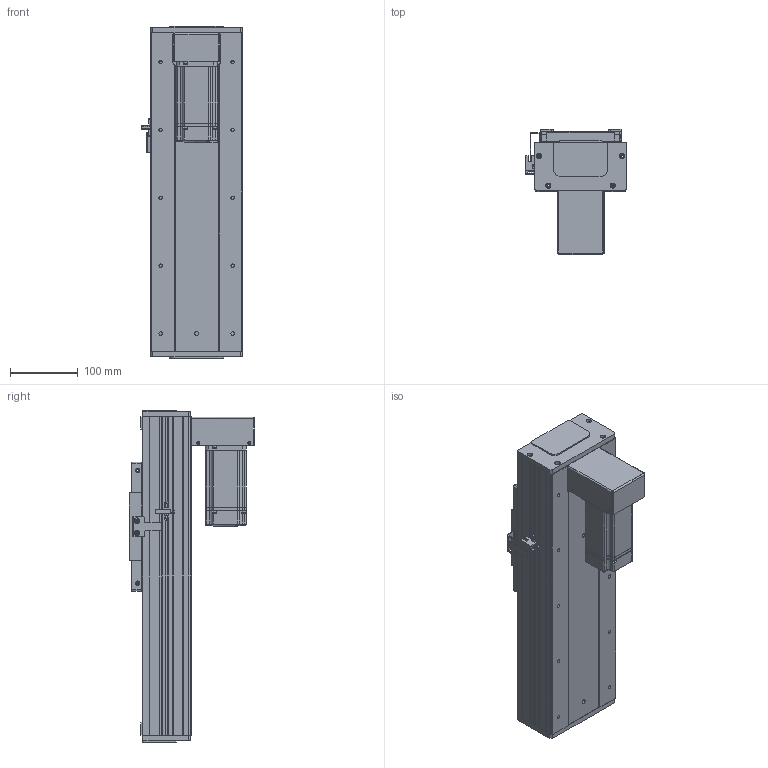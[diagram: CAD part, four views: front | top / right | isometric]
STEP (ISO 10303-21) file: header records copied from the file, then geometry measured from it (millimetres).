
FILE_DESCRIPTION (( 'STEP AP203' ), '1' );
FILE_NAME ('RY140F-L2020-300-BK.SLDASM_200.step', '2021-03-02T08:26:23', ( '盈信电脑' ), ( '东莞市道滘镇水果街19号' ), 'SwSTEP 2.0', 'SolidWorks 2012', '' );
FILE_SCHEMA (( 'CONFIG_CONTROL_DESIGN' ));
Products named in the file (21): RY140F-直连型材铝滑块(16丝杆); RY140F-L2020-300-BK.SLDASM_200; RY140F-狟殏萇儂欶(400W); RY140F-詩湍嘐隅輸; RY140F-狟殏萇儂啣(400W M5); 滅袉蝶18-10; 覜茼ん672; 侐源滅袉蝶; RY140F-672覜茼んえ; RY140F-詩湍揤え; RY140F-后盖板(铝件）; 侂狟400W侜督萇儂; 15; 藻笠沭; RY140F-詩湍幗謫粣; RY100F-詩湍揤踡謫; RY140F-滅鳥奻裔; RY140F-直连型材铝滑块连接座; RY140F-300-BK倰第菁釱_200; RY140F-300-BK蛌殏詩湍_200; RY140F-300-BK倰第奻裔啣_200
Assembly tree (26 placements, depth 3):
  RY140F-L2020-300-BK.SLDASM_200
    RY140F-300-BK倰第菁釱_200
    RY140F-300-BK倰第奻裔啣_200  x2
    RY140F-300-BK蛌殏詩湍_200
    RY140F-直连型材铝滑块连接座
    RY140F-滅鳥奻裔
    RY140F-詩湍幗謫粣
    藻笠沭  x2
    RY100F-詩湍揤踡謫
    RY140F-后盖板(铝件）  x2
    侂狟400W侜督萇儂
      15
    覜茼ん672
    RY140F-672覜茼んえ
    RY140F-詩湍揤え  x2
    侐源滅袉蝶  x2
    RY140F-狟殏萇儂啣(400W M5)
    RY140F-狟殏萇儂欶(400W)
    RY140F-詩湍嘐隅輸
    滅袉蝶18-10  x2
    RY140F-直连型材铝滑块(16丝杆)
Bounding box: 148.7 x 184.5 x 489 mm (x, y, z)
Volume: 2449712.9 mm3; surface area: 853444.2 mm2
Topology: 25 solids, 25 shells, 1936 faces, 5308 edges, 3406 vertices
Faces by surface type: cylinder 927, plane 811, cone 172, bspline 22, torus 4
Entity records: 61208 total; most frequent: CARTESIAN_POINT 12981, DIRECTION 9683, ORIENTED_EDGE 9500, EDGE_CURVE 4750, AXIS2_PLACEMENT_3D 3436, VERTEX_POINT 3110, LINE 2811, VECTOR 2811
